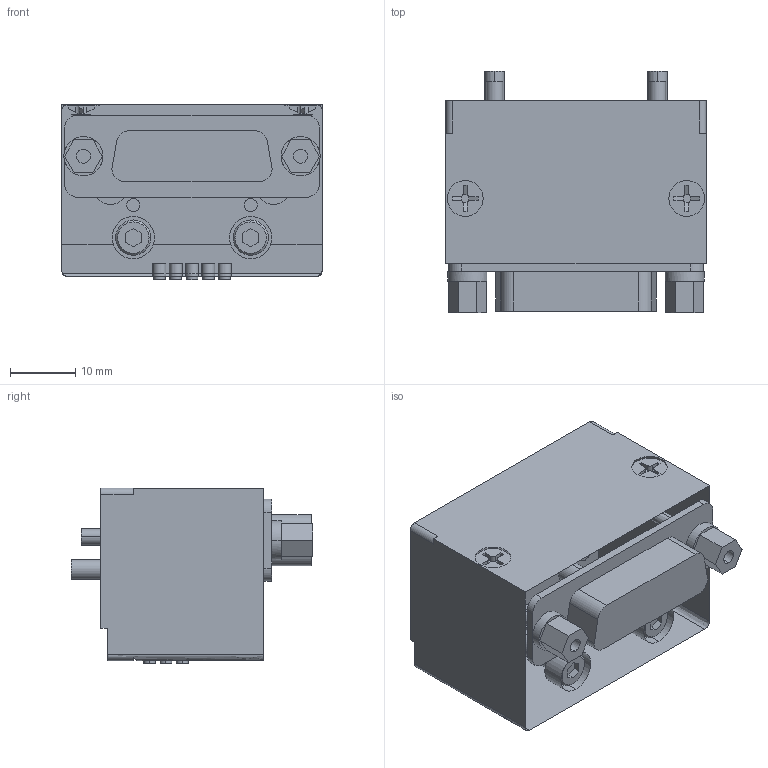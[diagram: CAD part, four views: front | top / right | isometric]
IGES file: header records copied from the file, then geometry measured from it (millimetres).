
Start section: 3D InterOp IGES (v. 2022 1.0.0), Spatial Corp. Copyright (c) 1999-2020.
Global section: file name: KHB-7~25RS-D315C_ver1.igs; native system: Spatial Corp.; preprocessor: 3D InterOp GENERIC/IGES 3.0; author: Noname; organization: Noname; date: 20260427.094818; units: millimetre
Bounding box: 40 x 37 x 27 mm (x, y, z)
Surface area: 8514.8 mm2 (no closed solid volume)
Topology: 0 solids, 0 shells, 443 faces, 1986 edges, 1986 vertices
Faces by surface type: extrusion 226, revolution 217
